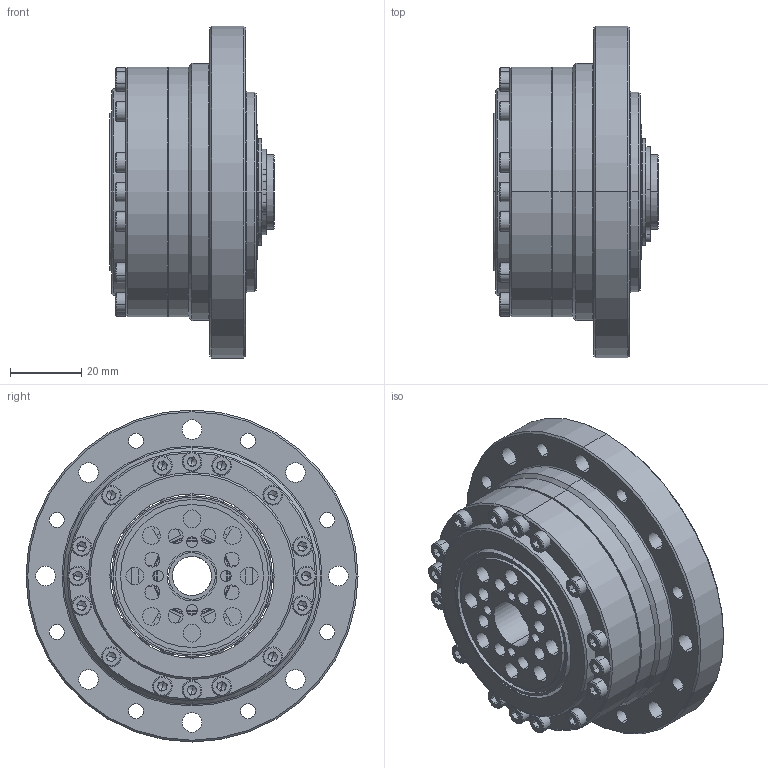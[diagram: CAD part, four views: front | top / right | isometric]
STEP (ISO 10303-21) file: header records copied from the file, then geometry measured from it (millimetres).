
FILE_DESCRIPTION (( 'STEP AP203' ), '1' );
FILE_NAME ('BCSG-20-XXX-U-¢ò.STEP', '2019-01-15T03:33:36', ( 'User' ), ( 'China' ), 'SwSTEP 2.0', 'SolidWorks 2015', '' );
FILE_SCHEMA (( 'CONFIG_CONTROL_DESIGN' ));
Length unit declared in the file: millimetre
Products named in the file (1): BCSG-20-XXX-U-ｊ
Bounding box: 46 x 93 x 93 mm (x, y, z)
Surface area: 66484.1 mm2 (no closed solid volume)
Topology: 0 solids, 53 shells, 692 faces, 2018 edges, 1294 vertices
Faces by surface type: cylinder 224, plane 199, cone 175, torus 52, sphere 40, bspline 2
Entity records: 22393 total; most frequent: CARTESIAN_POINT 4383, DIRECTION 4092, ORIENTED_EDGE 3254, EDGE_CURVE 1886, AXIS2_PLACEMENT_3D 1647, VERTEX_POINT 1234, CIRCLE 956, EDGE_LOOP 853
